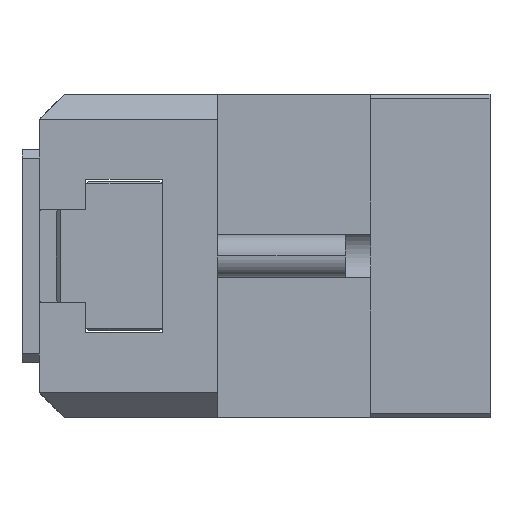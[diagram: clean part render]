
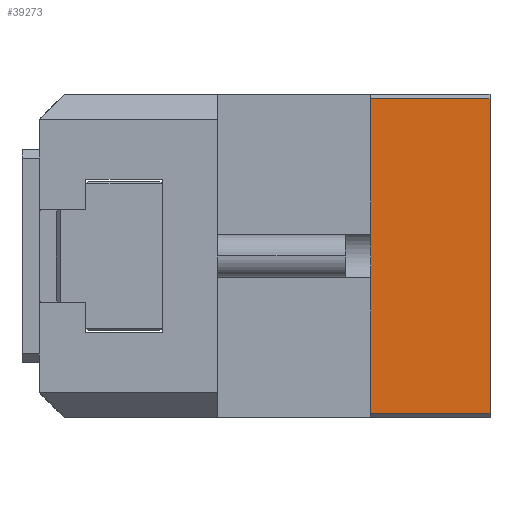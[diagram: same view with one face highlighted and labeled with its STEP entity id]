
A CAD part, left-side view. The second image highlights one B-rep face of the part: STEP entity #39273.
In plain terms, the highlighted planar face has unit normal (-1, 0, 0).
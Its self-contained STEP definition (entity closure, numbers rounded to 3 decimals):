
#1421 = CARTESIAN_POINT ( 'NONE',  ( -17.5, 0., -18.5 ) ) ;
#2757 = EDGE_LOOP ( 'NONE', ( #16043, #42786, #33938, #34215 ) ) ;
#3728 = CARTESIAN_POINT ( 'NONE',  ( -17.5, 19., -18.5 ) ) ;
#6959 = LINE ( 'NONE', #31476, #15948 ) ;
#8381 = DIRECTION ( 'NONE',  ( 0., 0., -1. ) ) ;
#9642 = VERTEX_POINT ( 'NONE', #3728 ) ;
#9788 = VECTOR ( 'NONE', #16914, 1000. ) ;
#9905 = CARTESIAN_POINT ( 'NONE',  ( -17.5, 19., 19. ) ) ;
#13087 = CARTESIAN_POINT ( 'NONE',  ( -17.5, 19., 18.5 ) ) ;
#15948 = VECTOR ( 'NONE', #8381, 1000. ) ;
#16043 = ORIENTED_EDGE ( 'NONE', *, *, #33911, .F. ) ;
#16914 = DIRECTION ( 'NONE',  ( 0., -1., 0. ) ) ;
#20192 = LINE ( 'NONE', #41318, #29299 ) ;
#21663 = DIRECTION ( 'NONE',  ( 1., 0., 0. ) ) ;
#21705 = AXIS2_PLACEMENT_3D ( 'NONE', #9905, #21663, #48696 ) ;
#22226 = DIRECTION ( 'NONE',  ( 0., 0., -1. ) ) ;
#23813 = CARTESIAN_POINT ( 'NONE',  ( -17.5, 19., -18.5 ) ) ;
#24518 = VERTEX_POINT ( 'NONE', #36846 ) ;
#28312 = VECTOR ( 'NONE', #42386, 1000. ) ;
#29279 = CARTESIAN_POINT ( 'NONE',  ( -17.5, 0., 18.5 ) ) ;
#29299 = VECTOR ( 'NONE', #22226, 1000. ) ;
#31476 = CARTESIAN_POINT ( 'NONE',  ( -17.5, 19., 19. ) ) ;
#32291 = FACE_OUTER_BOUND ( 'NONE', #2757, .T. ) ;
#33911 = EDGE_CURVE ( 'NONE', #42417, #9642, #38573, .T. ) ;
#33938 = ORIENTED_EDGE ( 'NONE', *, *, #47657, .F. ) ;
#34215 = ORIENTED_EDGE ( 'NONE', *, *, #42282, .T. ) ;
#36846 = CARTESIAN_POINT ( 'NONE',  ( -17.5, 19., 18.5 ) ) ;
#38573 = LINE ( 'NONE', #23813, #28312 ) ;
#38831 = EDGE_CURVE ( 'NONE', #47819, #42417, #20192, .T. ) ;
#39273 = ADVANCED_FACE ( 'NONE', ( #32291 ), #44816, .F. ) ;
#41318 = CARTESIAN_POINT ( 'NONE',  ( -17.5, 0., 19. ) ) ;
#42282 = EDGE_CURVE ( 'NONE', #24518, #9642, #6959, .T. ) ;
#42386 = DIRECTION ( 'NONE',  ( 0., 1., 0. ) ) ;
#42417 = VERTEX_POINT ( 'NONE', #1421 ) ;
#42786 = ORIENTED_EDGE ( 'NONE', *, *, #38831, .F. ) ;
#44816 = PLANE ( 'NONE',  #21705 ) ;
#47657 = EDGE_CURVE ( 'NONE', #24518, #47819, #49622, .T. ) ;
#47819 = VERTEX_POINT ( 'NONE', #29279 ) ;
#48696 = DIRECTION ( 'NONE',  ( 0., 0., -1. ) ) ;
#49622 = LINE ( 'NONE', #13087, #9788 ) ;
